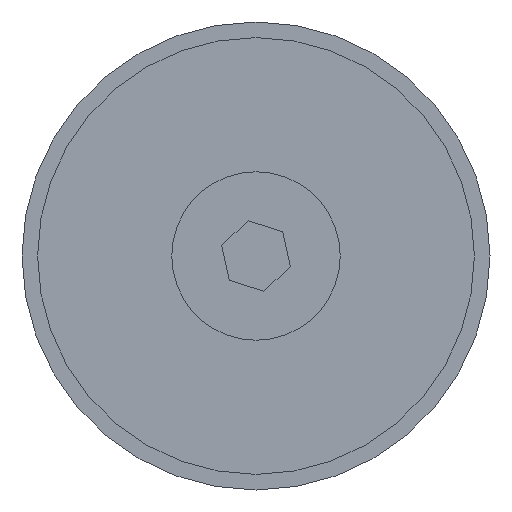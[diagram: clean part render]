
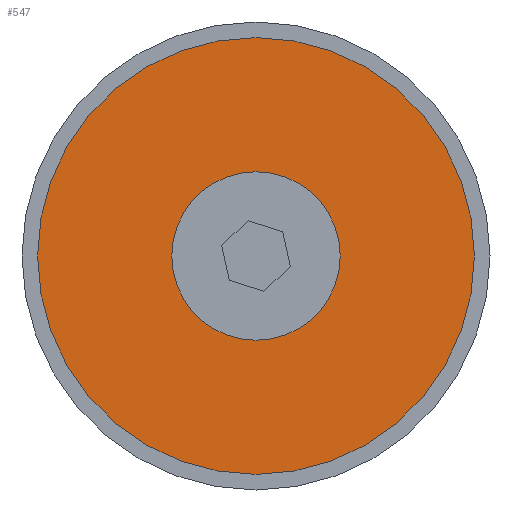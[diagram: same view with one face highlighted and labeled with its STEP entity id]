
A CAD part, front view. The second image highlights one B-rep face of the part: STEP entity #547.
In plain terms, the highlighted planar face has unit normal (0, -1, 0).
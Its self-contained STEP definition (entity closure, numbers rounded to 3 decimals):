
#65 = DIRECTION ( 'NONE',  ( -1., 0., 0. ) ) ;
#123 = VERTEX_POINT ( 'NONE', #1305 ) ;
#191 = DIRECTION ( 'NONE',  ( 1., 0., 0. ) ) ;
#221 = CARTESIAN_POINT ( 'NONE',  ( -35., 2.929, 0. ) ) ;
#225 = EDGE_LOOP ( 'NONE', ( #411, #1240 ) ) ;
#227 = CIRCLE ( 'NONE', #1412, 13.5 ) ;
#264 = EDGE_CURVE ( 'NONE', #123, #1283, #227, .T. ) ;
#270 = CIRCLE ( 'NONE', #1804, 35. ) ;
#411 = ORIENTED_EDGE ( 'NONE', *, *, #792, .T. ) ;
#541 = CARTESIAN_POINT ( 'NONE',  ( 0., 2.929, 0. ) ) ;
#547 = ADVANCED_FACE ( 'NONE', ( #1426, #1365 ), #627, .T. ) ;
#597 = EDGE_CURVE ( 'NONE', #794, #939, #885, .T. ) ;
#627 = PLANE ( 'NONE',  #1070 ) ;
#700 = DIRECTION ( 'NONE',  ( -1., 0., 0. ) ) ;
#741 = DIRECTION ( 'NONE',  ( 0., 1., 0. ) ) ;
#757 = DIRECTION ( 'NONE',  ( 0., -1., 0. ) ) ;
#774 = CARTESIAN_POINT ( 'NONE',  ( 35., 2.929, 0. ) ) ;
#792 = EDGE_CURVE ( 'NONE', #939, #794, #270, .T. ) ;
#794 = VERTEX_POINT ( 'NONE', #774 ) ;
#816 = CARTESIAN_POINT ( 'NONE',  ( -35., 2.929, 0. ) ) ;
#826 = EDGE_LOOP ( 'NONE', ( #1549, #1366 ) ) ;
#885 = CIRCLE ( 'NONE', #953, 35. ) ;
#939 = VERTEX_POINT ( 'NONE', #221 ) ;
#953 = AXIS2_PLACEMENT_3D ( 'NONE', #1080, #757, #1415 ) ;
#1015 = EDGE_CURVE ( 'NONE', #1283, #123, #1435, .T. ) ;
#1070 = AXIS2_PLACEMENT_3D ( 'NONE', #816, #1142, #191 ) ;
#1080 = CARTESIAN_POINT ( 'NONE',  ( 0., 2.929, 0. ) ) ;
#1087 = CARTESIAN_POINT ( 'NONE',  ( 0., 2.929, 0. ) ) ;
#1142 = DIRECTION ( 'NONE',  ( 0., -1., 0. ) ) ;
#1166 = DIRECTION ( 'NONE',  ( 0., -1., 0. ) ) ;
#1240 = ORIENTED_EDGE ( 'NONE', *, *, #597, .T. ) ;
#1283 = VERTEX_POINT ( 'NONE', #1402 ) ;
#1305 = CARTESIAN_POINT ( 'NONE',  ( -13.5, 2.929, 0. ) ) ;
#1365 = FACE_BOUND ( 'NONE', #826, .T. ) ;
#1366 = ORIENTED_EDGE ( 'NONE', *, *, #1015, .T. ) ;
#1402 = CARTESIAN_POINT ( 'NONE',  ( 13.5, 2.929, 0. ) ) ;
#1412 = AXIS2_PLACEMENT_3D ( 'NONE', #1716, #741, #1874 ) ;
#1415 = DIRECTION ( 'NONE',  ( -1., 0., 0. ) ) ;
#1426 = FACE_OUTER_BOUND ( 'NONE', #225, .T. ) ;
#1435 = CIRCLE ( 'NONE', #1569, 13.5 ) ;
#1549 = ORIENTED_EDGE ( 'NONE', *, *, #264, .T. ) ;
#1569 = AXIS2_PLACEMENT_3D ( 'NONE', #541, #1682, #700 ) ;
#1682 = DIRECTION ( 'NONE',  ( 0., 1., 0. ) ) ;
#1716 = CARTESIAN_POINT ( 'NONE',  ( 0., 2.929, 0. ) ) ;
#1804 = AXIS2_PLACEMENT_3D ( 'NONE', #1087, #1166, #65 ) ;
#1874 = DIRECTION ( 'NONE',  ( -1., 0., 0. ) ) ;
